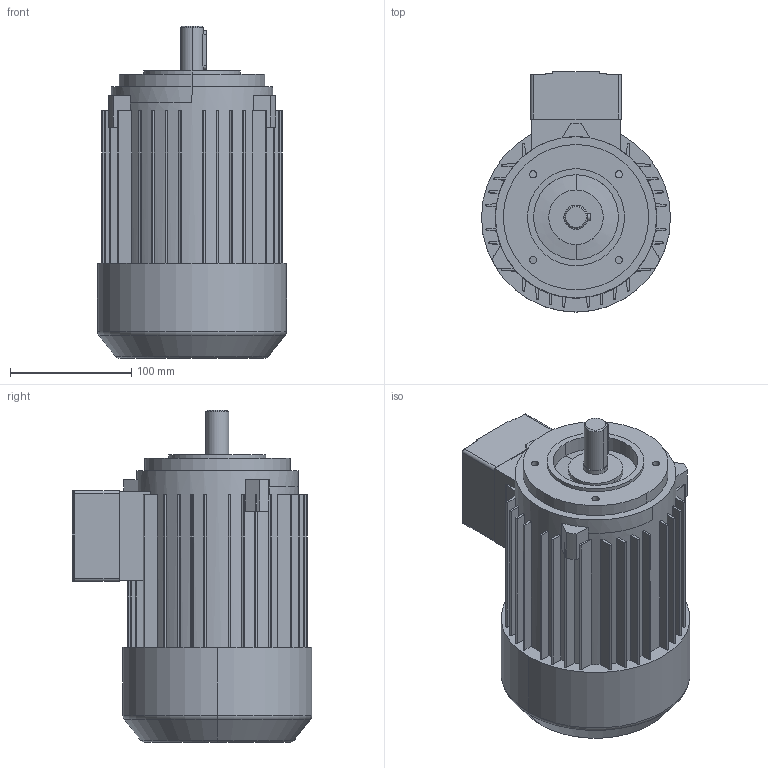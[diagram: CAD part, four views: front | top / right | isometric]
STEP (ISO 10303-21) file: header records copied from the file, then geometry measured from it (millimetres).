
FILE_DESCRIPTION((''),'2;1');
FILE_NAME('1LA7080-2AA12_PRT','2002-04-12T',('martin könig'),(''),'PRO/ENGINEER BY PARAMETRIC TECHNOLOGY CORPORATION, 2002030','PRO/ENGINEER BY PARAMETRIC TECHNOLOGY CORPORATION, 2002030','');
FILE_SCHEMA(('CONFIG_CONTROL_DESIGN'));
Length unit declared in the file: millimetre
Products named in the file (1): 1LA7080-2AA12_PRT
Bounding box: 156 x 198 x 274 mm (x, y, z)
Volume: 3934851.3 mm3; surface area: 223130.9 mm2
Topology: 1 solids, 1 shells, 231 faces, 627 edges, 411 vertices
Faces by surface type: plane 141, cylinder 76, cone 10, torus 4
Entity records: 7452 total; most frequent: CARTESIAN_POINT 1386, DIRECTION 1303, ORIENTED_EDGE 1254, EDGE_CURVE 627, AXIS2_PLACEMENT_3D 455, VERTEX_POINT 411, VECTOR 393, LINE 393
